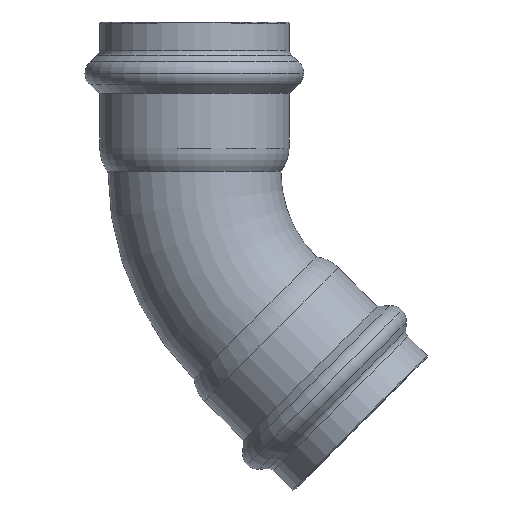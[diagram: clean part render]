
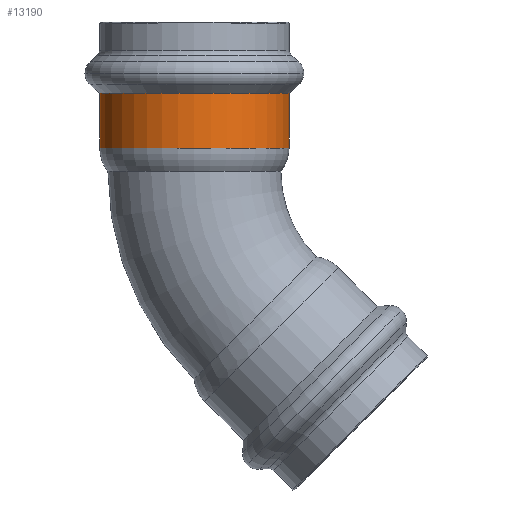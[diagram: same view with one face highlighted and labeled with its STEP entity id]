
A CAD part, top view. The second image highlights one B-rep face of the part: STEP entity #13190.
In plain terms, the highlighted cylindrical face has radius 19.15 mm (diameter 38.3 mm), a partial arc.
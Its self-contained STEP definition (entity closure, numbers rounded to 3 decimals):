
#4550=CARTESIAN_POINT('',(31.006,40.382,0.));
#4560=DIRECTION('',(0.,1.,0.));
#4570=DIRECTION('',(1.,0.,0.));
#4580=AXIS2_PLACEMENT_3D('',#4550,#4560,#4570);
#4590=CIRCLE('',#4580,19.15);
#4600=CARTESIAN_POINT('',(11.856,40.382,
0.));
#4610=VERTEX_POINT('',#4600);
#4620=CARTESIAN_POINT('',(50.156,40.382,0.));
#4630=VERTEX_POINT('',#4620);
#4640=EDGE_CURVE('',#4610,#4630,#4590,.T.);
#12750=CARTESIAN_POINT('',(11.856,51.503,
0.));
#12760=VERTEX_POINT('',#12750);
#12840=CARTESIAN_POINT('',(50.156,51.503,
0.));
#12850=VERTEX_POINT('',#12840);
#12880=CARTESIAN_POINT('',(31.006,51.503,0.));
#12890=DIRECTION('',(0.,1.,0.));
#12900=DIRECTION('',(1.,0.,0.));
#12910=AXIS2_PLACEMENT_3D('',#12880,#12890,#12900);
#12920=CIRCLE('',#12910,19.15);
#12930=EDGE_CURVE('',#12760,#12850,#12920,.T.);
#12980=CARTESIAN_POINT('',(31.006,45.943,0.));
#12990=DIRECTION('',(0.,1.,0.));
#13000=DIRECTION('',(1.,0.,0.));
#13010=AXIS2_PLACEMENT_3D('',#12980,#12990,#13000);
#13020=CYLINDRICAL_SURFACE('',#13010,19.15);
#13030=CARTESIAN_POINT('',(50.156,45.943,0.));
#13040=DIRECTION('',(0.,1.,0.));
#13050=VECTOR('',#13040,1.);
#13060=LINE('',#13030,#13050);
#13070=EDGE_CURVE('',#4630,#12850,#13060,.T.);
#13080=ORIENTED_EDGE('',*,*,#13070,.T.);
#13090=ORIENTED_EDGE('',*,*,#4640,.T.);
#13100=CARTESIAN_POINT('',(11.856,45.943,
0.));
#13110=DIRECTION('',(0.,1.,0.));
#13120=VECTOR('',#13110,1.);
#13130=LINE('',#13100,#13120);
#13140=EDGE_CURVE('',#4610,#12760,#13130,.T.);
#13150=ORIENTED_EDGE('',*,*,#13140,.F.);
#13160=ORIENTED_EDGE('',*,*,#12930,.F.);
#13170=EDGE_LOOP('',(#13160,#13150,#13090,#13080));
#13180=FACE_OUTER_BOUND('',#13170,.T.);
#13190=ADVANCED_FACE('',(#13180),#13020,.T.);
